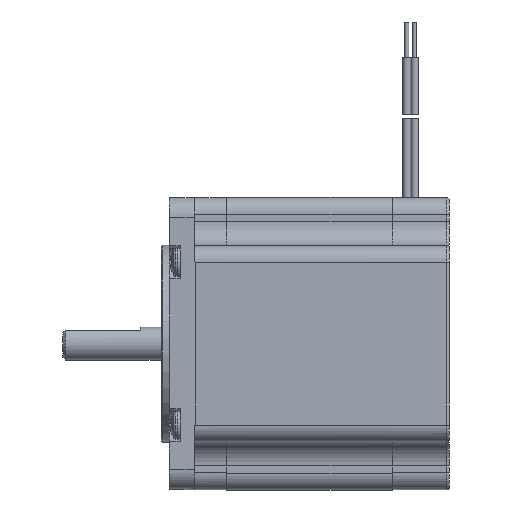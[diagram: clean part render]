
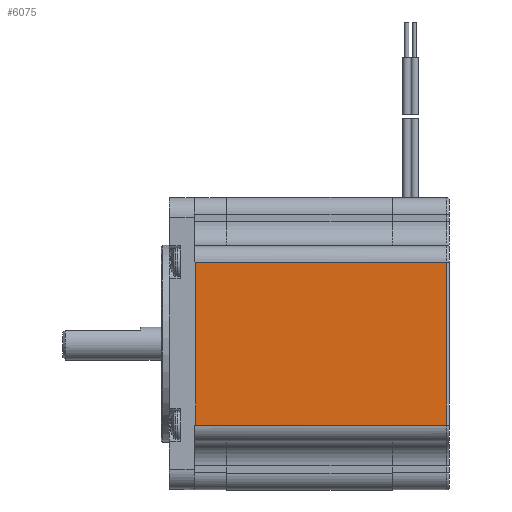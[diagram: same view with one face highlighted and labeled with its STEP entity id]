
A CAD part, left-side view. The second image highlights one B-rep face of the part: STEP entity #6075.
In plain terms, the highlighted planar face has unit normal (-1, 0, 0).
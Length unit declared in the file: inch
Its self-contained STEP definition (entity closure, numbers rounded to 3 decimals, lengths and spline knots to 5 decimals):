
#1600=CARTESIAN_POINT('',(-1.10609,2.66801,0.61775));
#1601=VERTEX_POINT('',#1600);
#1611=CARTESIAN_POINT('',(-1.10609,0.76028,0.61775));
#1612=VERTEX_POINT('',#1611);
#1613=CARTESIAN_POINT('',(-1.10609,0.78199,0.61775));
#1614=DIRECTION('',(0.,1.,0.));
#1615=VECTOR('',#1614,1.);
#1616=LINE('',#1613,#1615);
#1617=EDGE_CURVE('',#1612,#1601,#1616,.T.);
#6045=ORIENTED_EDGE('',*,*,#1617,.T.);
#6046=CARTESIAN_POINT('',(-1.10609,2.66801,-0.61775));
#6047=VERTEX_POINT('',#6046);
#6048=CARTESIAN_POINT('',(-1.10609,2.66801,0.41499));
#6049=DIRECTION('',(0.,0.,-1.));
#6050=VECTOR('',#6049,1.);
#6051=LINE('',#6048,#6050);
#6052=EDGE_CURVE('',#1601,#6047,#6051,.T.);
#6053=ORIENTED_EDGE('',*,*,#6052,.T.);
#6054=CARTESIAN_POINT('',(-1.10609,0.76028,-0.61775));
#6055=VERTEX_POINT('',#6054);
#6056=CARTESIAN_POINT('',(-1.10609,2.43407,-0.61775));
#6057=DIRECTION('',(0.,1.,0.));
#6058=VECTOR('',#6057,1.);
#6059=LINE('',#6056,#6058);
#6060=EDGE_CURVE('',#6055,#6047,#6059,.T.);
#6061=ORIENTED_EDGE('',*,*,#6060,.F.);
#6062=CARTESIAN_POINT('',(-1.10609,0.76028,0.));
#6063=DIRECTION('',(0.,0.,-1.));
#6064=VECTOR('',#6063,1.);
#6065=LINE('',#6062,#6064);
#6066=EDGE_CURVE('',#1612,#6055,#6065,.T.);
#6067=ORIENTED_EDGE('',*,*,#6066,.F.);
#6068=EDGE_LOOP('',(#6045,#6053,#6061,#6067));
#6069=FACE_OUTER_BOUND('',#6068,.T.);
#6070=CARTESIAN_POINT('',(-1.10609,2.43407,0.));
#6071=DIRECTION('',(-1.,0.,0.));
#6072=DIRECTION('',(0.,0.,1.));
#6073=AXIS2_PLACEMENT_3D('',#6070,#6071,#6072);
#6074=PLANE('',#6073);
#6075=ADVANCED_FACE('',(#6069),#6074,.T.);
